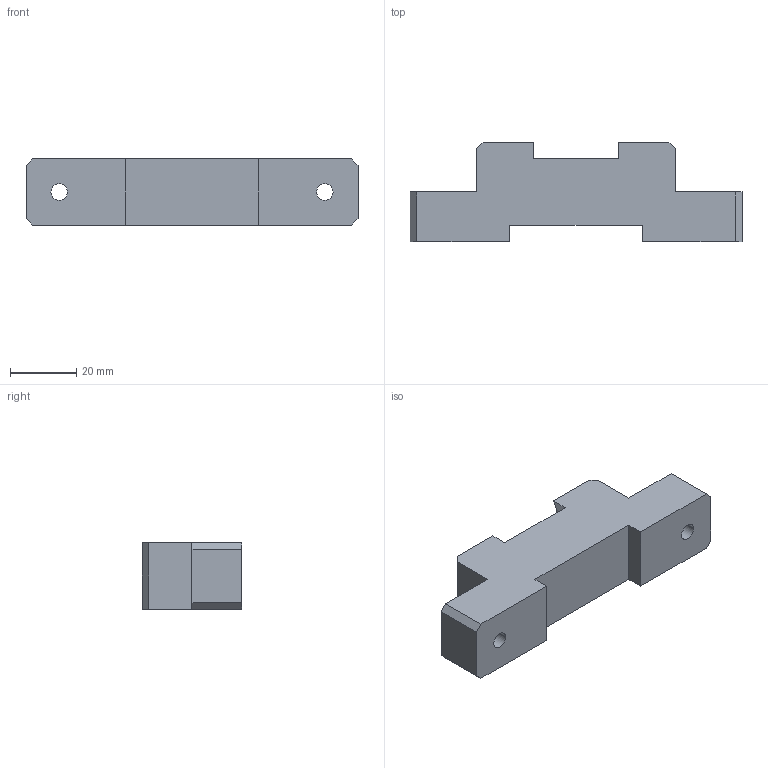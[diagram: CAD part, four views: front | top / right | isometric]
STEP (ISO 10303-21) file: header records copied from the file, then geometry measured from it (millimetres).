
FILE_DESCRIPTION (( 'STEP AP214' ), '1' );
FILE_NAME ('2026_3_1_センターガイドブロック.STEP', '2026-03-06T06:32:35', ( '' ), ( '' ), 'SwSTEP 2.0', 'SolidWorks 2025', '' );
FILE_SCHEMA (( 'AUTOMOTIVE_DESIGN' ));
Length unit declared in the file: millimetre
Products named in the file (1): 2026_3_1_センターガイドブロック
Bounding box: 100 x 30 x 20 mm (x, y, z)
Volume: 39758.6 mm3; surface area: 10156.1 mm2
Topology: 1 solids, 1 shells, 34 faces, 90 edges, 60 vertices
Faces by surface type: plane 24, cylinder 10
Entity records: 1195 total; most frequent: CARTESIAN_POINT 185, ORIENTED_EDGE 180, DIRECTION 180, EDGE_CURVE 90, LINE 70, VECTOR 70, VERTEX_POINT 60, AXIS2_PLACEMENT_3D 55
